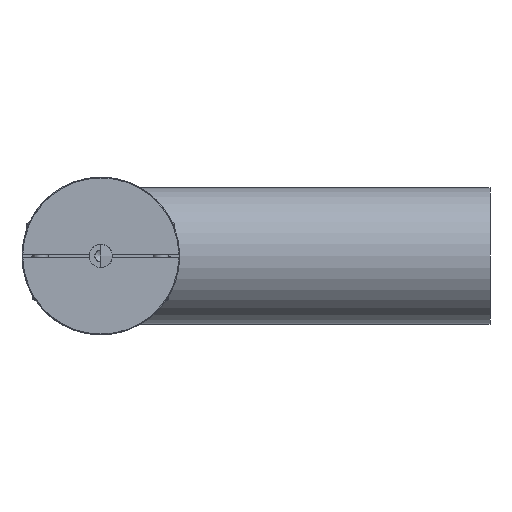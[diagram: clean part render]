
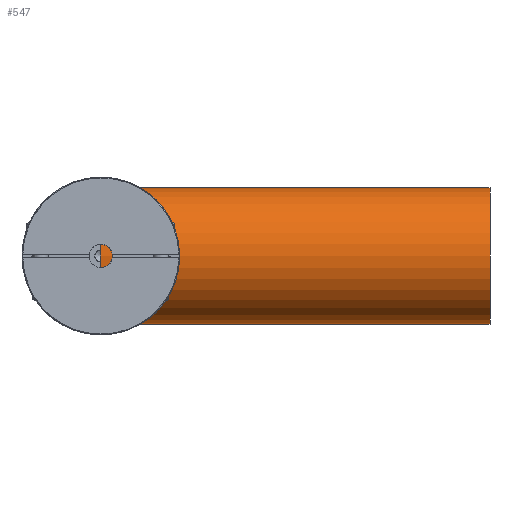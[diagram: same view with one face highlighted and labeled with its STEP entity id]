
A CAD part, left-side view. The second image highlights one B-rep face of the part: STEP entity #547.
In plain terms, the highlighted cylindrical face has radius 17.5 mm (diameter 35 mm), a full revolution.
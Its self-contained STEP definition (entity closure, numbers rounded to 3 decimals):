
#547 = ADVANCED_FACE( '', ( #965, #966 ), #967, .T. );
#965 = FACE_OUTER_BOUND( '', #1285, .T. );
#966 = FACE_OUTER_BOUND( '', #1286, .T. );
#967 = CYLINDRICAL_SURFACE( '', #1287, 17.5 );
#1285 = EDGE_LOOP( '', ( #1842 ) );
#1286 = EDGE_LOOP( '', ( #1843 ) );
#1287 = AXIS2_PLACEMENT_3D( '', #1844, #1845, #1846 );
#1842 = ORIENTED_EDGE( '', *, *, #2352, .T. );
#1843 = ORIENTED_EDGE( '', *, *, #2353, .F. );
#1844 = CARTESIAN_POINT( '', ( 0., -100., 0. ) );
#1845 = DIRECTION( '', ( 0., -1., 0. ) );
#1846 = DIRECTION( '', ( 0., 0., 1. ) );
#2352 = EDGE_CURVE( '', #2618, #2618, #2619, .T. );
#2353 = EDGE_CURVE( '', #2620, #2620, #2621, .T. );
#2618 = VERTEX_POINT( '', #2838 );
#2619 = CIRCLE( '', #2839, 17.5 );
#2620 = VERTEX_POINT( '', #2840 );
#2621 = CIRCLE( '', #2841, 17.5 );
#2838 = CARTESIAN_POINT( '', ( 17.5, -100., 0. ) );
#2839 = AXIS2_PLACEMENT_3D( '', #3093, #3094, #3095 );
#2840 = CARTESIAN_POINT( '', ( 17.5, 0., 0. ) );
#2841 = AXIS2_PLACEMENT_3D( '', #3096, #3097, #3098 );
#3093 = CARTESIAN_POINT( '', ( 0., -100., 0. ) );
#3094 = DIRECTION( '', ( 0., 1., 0. ) );
#3095 = DIRECTION( '', ( 1., 0., 0. ) );
#3096 = CARTESIAN_POINT( '', ( 0., 0., 0. ) );
#3097 = DIRECTION( '', ( 0., 1., 0. ) );
#3098 = DIRECTION( '', ( 1., 0., 0. ) );
